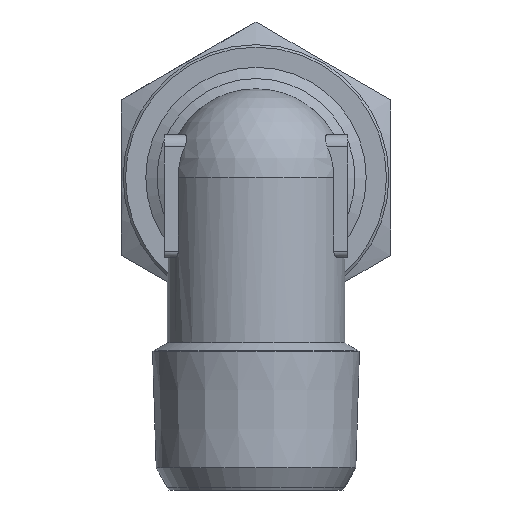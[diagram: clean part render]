
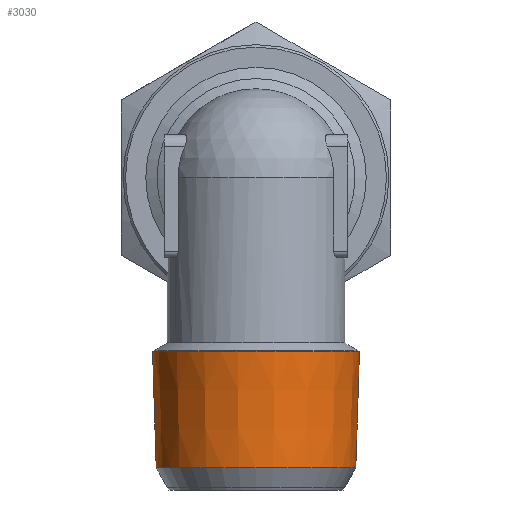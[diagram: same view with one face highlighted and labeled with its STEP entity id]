
A CAD part, left-side view. The second image highlights one B-rep face of the part: STEP entity #3030.
In plain terms, the highlighted conical face has half-angle 1.79 degrees and reference radius 8.444 mm.
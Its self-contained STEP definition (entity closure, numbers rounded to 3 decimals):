
#3030=ADVANCED_FACE('', (#3040,#3050), #3060, .T.);
#9840=AXIS2_PLACEMENT_3D('Ax2Pl3d', #9850, #9860, #9870);
#9960=AXIS2_PLACEMENT_3D('Ax2Pl3d', #9970, #9980, #9990);
#10000=AXIS2_PLACEMENT_3D('Ax2Pl3d', #10010, #10020, #10030);
#9850=CARTESIAN_POINT('HicPkt', (19.664,21.19,
29.428));
#32970=CARTESIAN_POINT('', (19.664,12.746,29.428));
#9970=CARTESIAN_POINT('HicPkt', (19.664,21.19,
19.917));
#32990=CARTESIAN_POINT('', (19.664,13.043,19.917));
#10010=CARTESIAN_POINT('HicPkt', (19.664,21.19,
29.428));
#33670=CIRCLE('Circle', #9840, 8.444);
#33690=CIRCLE('Circle', #9960, 8.147);
#3060=CONICAL_SURFACE('Kegel', #10000, 8.444, 
0.031);
#9860=DIRECTION('Axis', (0.,0.,1.));
#9870=DIRECTION('RefDirection', (1.,0.,-0.));
#9980=DIRECTION('Axis', (0.,0.,-1.));
#9990=DIRECTION('RefDirection', (-1.,-0.,0.));
#10020=DIRECTION('Axis', (0.,0.,1.));
#10030=DIRECTION('RefDirection', (1.,0.,-0.));
#42300=EDGE_CURVE('', #42310, #42310, #33670, .T.);
#42340=EDGE_CURVE('', #42350, #42350, #33690, .T.);
#46810=EDGE_LOOP('Edge_loop', (#46820));
#46830=EDGE_LOOP('Edge_loop', (#46840));
#3050=FACE_BOUND('', #46830, .T.);
#3040=FACE_OUTER_BOUND('Face_outer_bound', #46810, .T.);
#46820=ORIENTED_EDGE('', *, *, #42300, .F.);
#46840=ORIENTED_EDGE('', *, *, #42340, .F.);
#42310=VERTEX_POINT('', #32970);
#42350=VERTEX_POINT('', #32990);
